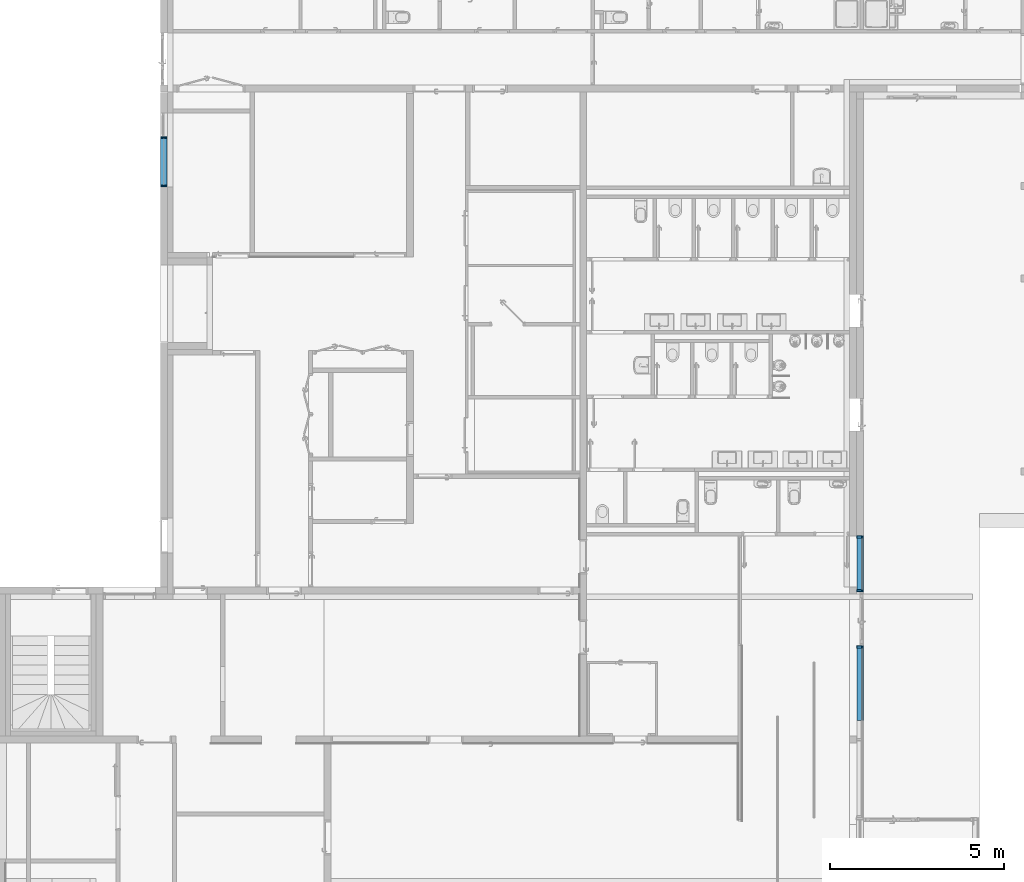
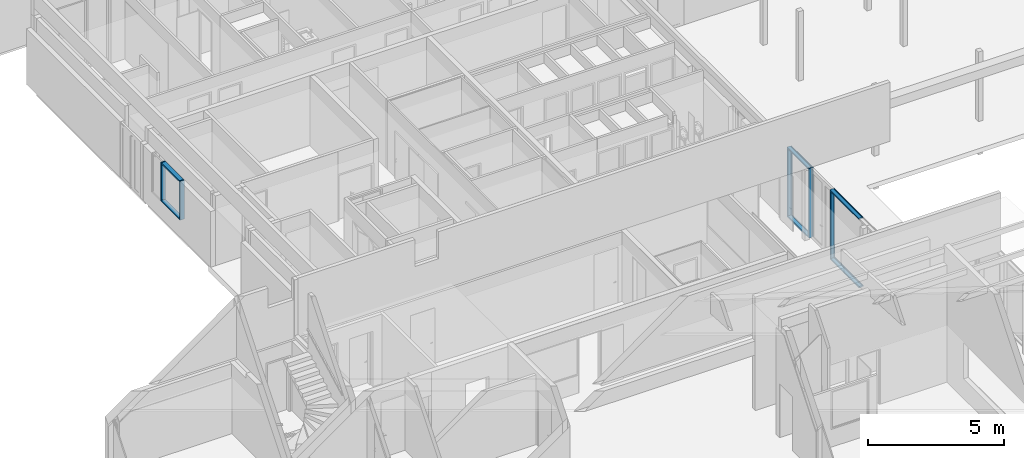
# One storey, part 10 of 240: 12 members, 3 elements without a shape of their own.
"""IFC2X3 building model written with IfcOpenShell, lengths in centimetres."""

import ifcopenshell
import ifcopenshell.guid

model = None  # the IFC model being written
_history = None  # IfcOwnerHistory: only IFC2X3 demands one
_inside = {}  # id of a spatial element -> (the spatial element, [elements in it])
_under = {}  # id of a project, library or spatial element -> (it, [spatial elements below it])
_declared = {}  # id of a project -> (the project, [libraries it declares])
_typed = {}  # id of a type object -> (the type object, [elements of that type])
_made_of = {}  # id of a material, layer set ... -> (it, [elements and type objects made of it])


def new_model(schema):
    """Start an empty IFC model of exactly this schema.

    Asked for "IFC4X3", IfcOpenShell would pick the latest addendum, in which some entities
    have other attributes; the version numbers below select the first issue.
    IFC2X3 requires an IfcOwnerHistory on every rooted entity: one is made here for all.
    """
    global model, _history
    if schema == "IFC4X3":
        model = ifcopenshell.file(schema_version=(4, 3, 0, 0))
    else:
        model = ifcopenshell.file(schema=schema)
    _inside.clear()
    _under.clear()
    _declared.clear()
    _typed.clear()
    _made_of.clear()
    _history = None
    if model.schema == "IFC2X3":
        org = make("IfcOrganization", Name="unknown")
        user = make(
            "IfcPersonAndOrganization",
            ThePerson=make("IfcPerson", FamilyName="unknown"),
            TheOrganization=org,
        )
        app = make(
            "IfcApplication",
            ApplicationDeveloper=org,
            Version="unknown",
            ApplicationFullName="unknown",
            ApplicationIdentifier="unknown",
        )
        _history = make(
            "IfcOwnerHistory",
            OwningUser=user,
            OwningApplication=app,
            ChangeAction="ADDED",
            CreationDate=0,
        )
    return model


def make(cls, **values):
    """One entity of the class cls with the attributes given. An attribute that is None is left unset."""
    return model.create_entity(
        cls, **{name: value for name, value in values.items() if value is not None}
    )


def entity(cls, *values):
    """Any entity or typed value of the class cls, its attributes in the order of the schema. None: left unset."""
    e = model.create_entity(cls)
    for i, value in enumerate(values):
        if value is not None:
            e[i] = value
    return e


def rooted(cls, **values):
    """An entity with a GlobalId (a new one), such as an element, a storey or a relation."""
    return make(cls, GlobalId=ifcopenshell.guid.new(), OwnerHistory=_history, **values)


def si_unit(unit_type, name, prefix=None):
    """IfcSIUnit, for example si_unit("LENGTHUNIT", "METRE", prefix="MILLI")."""
    return make("IfcSIUnit", UnitType=unit_type, Prefix=prefix, Name=name)


def converted_unit(unit_type, name, factor, base, dimensions=None, offset=None):
    """IfcConversionBasedUnit, such as the inch: factor (a typed value) times the base unit."""
    return make(
        "IfcConversionBasedUnit"
        if offset is None
        else "IfcConversionBasedUnitWithOffset",
        ConversionOffset=offset,
        Dimensions=None
        if dimensions is None
        else entity("IfcDimensionalExponents", *dimensions),
        UnitType=unit_type,
        Name=name,
        ConversionFactor=make(
            "IfcMeasureWithUnit", ValueComponent=factor, UnitComponent=base
        ),
    )


def derived_unit(unit_type, elements):
    """IfcDerivedUnit: a product of units, each with its exponent."""
    return make(
        "IfcDerivedUnit",
        Elements=[
            make("IfcDerivedUnitElement", Unit=unit, Exponent=power)
            for unit, power in elements
        ],
        UnitType=unit_type,
    )


def assignment(units):
    """IfcUnitAssignment: the units of a project."""
    return None if units is None else make("IfcUnitAssignment", Units=units)


def point(xyz):
    """IfcCartesianPoint."""
    return None if xyz is None else make("IfcCartesianPoint", Coordinates=xyz)


def direction(xyz):
    """IfcDirection."""
    return None if xyz is None else make("IfcDirection", DirectionRatios=xyz)


def frame(location, z_axis=None, x_axis=None):
    """IfcAxis2Placement3D, a coordinate frame: its origin and axes. An axis left out is left unset."""
    return make(
        "IfcAxis2Placement3D",
        Location=point(location),
        Axis=direction(z_axis),
        RefDirection=direction(x_axis),
    )


def frame_2d(location, x_axis=None):
    """IfcAxis2Placement2D, a coordinate frame in the plane: its origin and x axis."""
    return make(
        "IfcAxis2Placement2D", Location=point(location), RefDirection=direction(x_axis)
    )


def origin():
    """The frame at (0, 0, 0) with its axes left unset."""
    return frame((0.0, 0.0, 0.0))


def origin_2d_with_axis():
    """The frame at (0, 0) in the plane with the x axis (1, 0) written out."""
    return frame_2d((0.0, 0.0), x_axis=(1.0, 0.0))


def place(relative_to, where):
    """IfcLocalPlacement: puts the frame where relative to a parent placement (None: the world)."""
    return make(
        "IfcLocalPlacement", PlacementRelTo=relative_to, RelativePlacement=where
    )


def context(
    kind, dimensions, precision=None, world=None, true_north=None, identifier=None
):
    """IfcGeometricRepresentationContext, for example the 3D "Model" context."""
    return make(
        "IfcGeometricRepresentationContext",
        ContextIdentifier=identifier,
        ContextType=kind,
        CoordinateSpaceDimension=dimensions,
        Precision=precision,
        WorldCoordinateSystem=world,
        TrueNorth=true_north,
    )


def subcontext(parent, identifier, kind, view, scale=None):
    """IfcGeometricRepresentationSubContext, for example "Body" below "Model"."""
    return make(
        "IfcGeometricRepresentationSubContext",
        ContextIdentifier=identifier,
        ContextType=kind,
        ParentContext=parent,
        TargetScale=scale,
        TargetView=view,
    )


def project(units=None, contexts=None):
    """IfcProject with its units and contexts."""
    return rooted(
        "IfcProject",
        Name="project",
        RepresentationContexts=contexts,
        UnitsInContext=assignment(units),
    )


def spatial(cls, under=None, at=None, **own):
    """A site, building, storey or space (cls), placed at a placement, below another one or the project."""
    s = rooted(cls, ObjectPlacement=at, **own)
    if under is not None:
        _under.setdefault(under.id(), (under, []))[1].append(s)
    return s


def polyline(points):
    """IfcPolyline through the points."""
    return make("IfcPolyline", Points=[point(p) for p in points])


def profile(cls, at=None, kind="AREA", **sizes):
    """A parametric profile (cls). Its sizes go by their IFC names, for example OverallWidth=200.0."""
    return make(cls, ProfileType=kind, Position=at, **sizes)


def rectangle(**sizes):
    """IfcRectangleProfileDef."""
    return profile("IfcRectangleProfileDef", **sizes)


def outline(outer, holes=None, kind="AREA"):
    """IfcArbitraryClosedProfileDef: a profile drawn as a closed curve; with holes, ...WithVoids."""
    if holes is None:
        return make("IfcArbitraryClosedProfileDef", ProfileType=kind, OuterCurve=outer)
    return make(
        "IfcArbitraryProfileDefWithVoids",
        ProfileType=kind,
        OuterCurve=outer,
        InnerCurves=holes,
    )


def extrude(swept, where, along, depth):
    """IfcExtrudedAreaSolid: the profile swept, set in the frame where, extruded along a direction by depth."""
    return make(
        "IfcExtrudedAreaSolid",
        SweptArea=swept,
        Position=where,
        ExtrudedDirection=direction(along),
        Depth=depth,
    )


def shape(context_of_items, identifier, shape_type, items):
    """IfcShapeRepresentation: the items that make up one representation, for example the "Body"."""
    return make(
        "IfcShapeRepresentation",
        ContextOfItems=context_of_items,
        RepresentationIdentifier=identifier,
        RepresentationType=shape_type,
        Items=items,
    )


def source(mapping_origin, context_of_items, identifier, shape_type, items):
    """IfcRepresentationMap: a shape defined once, which mapped items show again and again."""
    return make(
        "IfcRepresentationMap",
        MappingOrigin=mapping_origin,
        MappedRepresentation=shape(context_of_items, identifier, shape_type, items),
    )


def transform(
    local_origin,
    x_axis=None,
    y_axis=None,
    z_axis=None,
    scale=None,
    scale2=None,
    scale3=None,
    uniform=True,
):
    """IfcCartesianTransformationOperator3D, or its non-uniform kind. x_axis, y_axis, z_axis: its Axis1, 2, 3."""
    if uniform:
        return make(
            "IfcCartesianTransformationOperator3D",
            Axis1=direction(x_axis),
            Axis2=direction(y_axis),
            LocalOrigin=point(local_origin),
            Scale=scale,
            Axis3=direction(z_axis),
        )
    return make(
        "IfcCartesianTransformationOperator3DnonUniform",
        Axis1=direction(x_axis),
        Axis2=direction(y_axis),
        LocalOrigin=point(local_origin),
        Scale=scale,
        Axis3=direction(z_axis),
        Scale2=scale2,
        Scale3=scale3,
    )


def mapped(mapping_source, mapping_target):
    """IfcMappedItem: shows the shape of a source again, moved by a transform."""
    return make(
        "IfcMappedItem", MappingSource=mapping_source, MappingTarget=mapping_target
    )


def material(Name=None, Category=None):
    """IfcMaterial."""
    return make("IfcMaterial", Name=Name, Category=Category)


def made_of(thing, what):
    """Note that an element or type object is made of a material, layer set ...; save() writes the relation."""
    if what is not None:
        _made_of.setdefault(what.id(), (what, []))[1].append(thing)
    return thing


def type_object(cls, material=None, **own):
    """A type object (cls), such as IfcWallType, which elements share."""
    return made_of(rooted(cls, **own), material)


def type_shapes(of_type, sources):
    """Give a type object the sources (RepresentationMaps) that its elements show as mapped items."""
    of_type.RepresentationMaps = sources


def element(
    cls,
    number,
    at=None,
    inside=None,
    cuts=None,
    type_object=None,
    material=None,
    context=None,
    identifier="Body",
    shape_type=None,
    held_by="IfcProductDefinitionShape",
    body=None,
    shapes=None,
    **own,
):
    """One element of the class cls, such as IfcWall. Its Tag is "e" and its number.

    at: its placement. inside: the storey or other place that contains it. cuts: it is an
    opening in that element (IfcRelVoidsElement). A single representation is given by context,
    identifier, shape_type and body (its items); several are given by shapes. held_by: the class
    of the entity that holds the representations. save() writes the other relations.
    """
    e = rooted(cls, Tag="e%d" % number, ObjectPlacement=at, **own)
    if body is not None:
        shapes = [shape(context, identifier, shape_type, body)]
    if shapes is not None:
        e.Representation = make(held_by, Representations=shapes)
    if inside is not None:
        _inside.setdefault(inside.id(), (inside, []))[1].append(e)
    if cuts is not None:
        rooted(
            "IfcRelVoidsElement", RelatingBuildingElement=cuts, RelatedOpeningElement=e
        )
    if type_object is not None:
        _typed.setdefault(type_object.id(), (type_object, []))[1].append(e)
    return made_of(e, material)


def aggregate(whole, parts):
    """IfcRelAggregates: a whole, such as a stair, and the parts it consists of."""
    return rooted("IfcRelAggregates", RelatingObject=whole, RelatedObjects=parts)


def save(model, path):
    """Write the relations noted so far, then the file.

    IfcRelAggregates (storeys below a building ...), IfcRelContainedInSpatialStructure (elements
    in a storey), IfcRelDefinesByType, IfcRelAssociatesMaterial and IfcRelDeclares: one each for
    every whole, place, type object, material and project.
    """
    for whole, parts in _under.values():
        aggregate(whole, parts)
    for where, things in _inside.values():
        rooted(
            "IfcRelContainedInSpatialStructure",
            RelatedElements=things,
            RelatingStructure=where,
        )
    for kind, things in _typed.values():
        rooted("IfcRelDefinesByType", RelatedObjects=things, RelatingType=kind)
    for what, things in _made_of.values():
        rooted("IfcRelAssociatesMaterial", RelatedObjects=things, RelatingMaterial=what)
    for by, libraries in _declared.values():
        rooted("IfcRelDeclares", RelatingContext=by, RelatedDefinitions=libraries)
    model.write(path)


model = new_model("IFC2X3")

# Units and contexts
model_context = context("Model", 3, precision=0.001, world=origin(), true_north=direction((6.12303176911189e-17, 1.0)))
body_context = subcontext(model_context, "Body", "Model", "MODEL_VIEW")
ifc_project = project(units=[si_unit("LENGTHUNIT", "METRE", prefix="CENTI"), si_unit("AREAUNIT", "SQUARE_METRE"), si_unit("VOLUMEUNIT", "CUBIC_METRE"), converted_unit("PLANEANGLEUNIT", "DEGREE", entity("IfcRatioMeasure", 0.0174532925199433), si_unit("PLANEANGLEUNIT", "RADIAN"), dimensions=[0, 0, 0, 0, 0, 0, 0]), si_unit("MASSUNIT", "GRAM", prefix="KILO"), derived_unit("MASSDENSITYUNIT", [(si_unit("MASSUNIT", "GRAM", prefix="KILO"), 1), (si_unit("LENGTHUNIT", "METRE"), -3)]), si_unit("TIMEUNIT", "SECOND"), si_unit("FREQUENCYUNIT", "HERTZ"), si_unit("THERMODYNAMICTEMPERATUREUNIT", "DEGREE_CELSIUS"), derived_unit("THERMALTRANSMITTANCEUNIT", [(si_unit("MASSUNIT", "GRAM", prefix="KILO"), 1), (si_unit("THERMODYNAMICTEMPERATUREUNIT", "KELVIN"), -1), (si_unit("TIMEUNIT", "SECOND"), -3)]), derived_unit("VOLUMETRICFLOWRATEUNIT", [(si_unit("LENGTHUNIT", "METRE"), 3), (si_unit("TIMEUNIT", "SECOND"), -1)]), si_unit("ELECTRICCURRENTUNIT", "AMPERE"), si_unit("ELECTRICVOLTAGEUNIT", "VOLT"), si_unit("POWERUNIT", "WATT"), si_unit("FORCEUNIT", "NEWTON", prefix="KILO"), si_unit("ILLUMINANCEUNIT", "LUX"), si_unit("LUMINOUSFLUXUNIT", "LUMEN"), si_unit("LUMINOUSINTENSITYUNIT", "CANDELA"), derived_unit("USERDEFINED", [(si_unit("MASSUNIT", "GRAM", prefix="KILO"), -1), (si_unit("LENGTHUNIT", "METRE"), -2), (si_unit("TIMEUNIT", "SECOND"), 3), (si_unit("LUMINOUSFLUXUNIT", "LUMEN"), 1)]), derived_unit("LINEARVELOCITYUNIT", [(si_unit("LENGTHUNIT", "METRE"), 1), (si_unit("TIMEUNIT", "SECOND"), -1)]), si_unit("PRESSUREUNIT", "PASCAL"), derived_unit("USERDEFINED", [(si_unit("LENGTHUNIT", "METRE"), -2), (si_unit("MASSUNIT", "GRAM", prefix="KILO"), 1), (si_unit("TIMEUNIT", "SECOND"), -2)])], contexts=[model_context])

# Site, building, storey
site_placement = place(None, frame((-2781.94577612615, 7442.24238424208, 0.0)))
site = spatial("IfcSite", under=ifc_project, at=site_placement, Name="Default", CompositionType="ELEMENT")
building_placement = place(site_placement, origin())
building = spatial("IfcBuilding", under=site, at=building_placement, CompositionType="ELEMENT")
storey_placement = place(building_placement, origin())
storey = spatial("IfcBuildingStorey", under=building, at=storey_placement, Name="N00 - COO", CompositionType="ELEMENT", Elevation=0.0)

# Curtain wall, members
curtain_wall_type_1 = type_object("IfcCurtainWallType", Name="Mur-rideau:07 - mur rideau trame 280 cm", PredefinedType="NOTDEFINED")
curtain_wall_1_placement = place(building_placement, origin())
curtain_wall_1 = element("IfcCurtainWall", 1, at=curtain_wall_1_placement, inside=storey, type_object=curtain_wall_type_1, Name="Mur-rideau:07 - mur rideau trame 280 cm", ObjectType="Mur-rideau:07 - mur rideau trame 280 cm")
ifc_material_1 = material(Name="Aluminium")
member_type_1 = type_object("IfcMemberType", Name="150 x 25mm Détails", PredefinedType="MEMBER")
shared_shape_1 = source(origin(), body_context, "Body", "SweptSolid", [
    extrude(outline(polyline([(-13.3333333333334, -3.25000000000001), (0.166666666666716, -3.25000000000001), (0.166666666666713, -0.86874999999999), (3.66666666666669, -0.86874999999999), (3.66666666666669, -3.24999999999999), (5.66666666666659, -3.24999999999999), (5.66666666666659, 3.25), (3.66666666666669, 3.25), (3.66666666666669, 0.868749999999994), (0.166666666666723, 0.868749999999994), (0.166666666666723, 3.25000000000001), (-13.3333333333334, 3.24999999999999), (-13.3333333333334, -3.25000000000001)])), frame((-3.24999999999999, 1.96666666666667, -313.0), z_axis=(0.0, 0.0, 1.0), x_axis=(0.0, -1.0, 0.0)), (0.0, 0.0, 1.0), 313.0),
])
type_shapes(member_type_1, [shared_shape_1])
member_1_placement = place(building_placement, frame((-8885.63218005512, -3365.79180651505, 0.0), z_axis=(0.0, 0.0, -1.0), x_axis=(0.0, -1.0, 0.0)))
member_1 = element("IfcMember", 2, at=member_1_placement, type_object=member_type_1, material=ifc_material_1, Name="Meneau rectangulaire:150 x 25mm Détails", ObjectType="Meneau rectangulaire:150 x 25mm Détails", context=body_context, shape_type="MappedRepresentation", body=[
    mapped(shared_shape_1, transform((0.0, 0.0, 0.0), scale=1.0)),
])
member_type_2 = type_object("IfcMemberType", Name="150 x 25mm Détails", PredefinedType="MEMBER")
shared_shape_2 = source(origin(), body_context, "Body", "SweptSolid", [
    extrude(outline(polyline([(-13.3333333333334, -3.24999999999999), (0.166666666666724, -3.24999999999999), (0.166666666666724, -0.868749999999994), (3.66666666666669, -0.868749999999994), (3.66666666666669, -3.25), (5.6666666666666, -3.25), (5.6666666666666, 3.24999999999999), (3.66666666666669, 3.24999999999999), (3.66666666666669, 0.86874999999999), (0.166666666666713, 0.86874999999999), (0.166666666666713, 3.25000000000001), (-13.3333333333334, 3.25000000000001), (-13.3333333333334, -3.24999999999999)])), frame((-3.24999999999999, 1.96666666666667, -300.0), z_axis=(0.0, 0.0, 1.0), x_axis=(0.0, -1.0, 0.0)), (0.0, 0.0, 1.0), 300.000000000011),
])
type_shapes(member_type_2, [shared_shape_2])
member_2_placement = place(building_placement, frame((-8885.63218005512, -3205.07903364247, 306.500000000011), z_axis=(0.0, 0.0, 1.0), x_axis=(0.0, 1.0, 0.0)))
member_2 = element("IfcMember", 3, at=member_2_placement, type_object=member_type_2, material=ifc_material_1, Name="Meneau rectangulaire:150 x 25mm Détails", ObjectType="Meneau rectangulaire:150 x 25mm Détails", context=body_context, shape_type="MappedRepresentation", body=[
    mapped(shared_shape_2, transform((0.0, 0.0, 0.0), scale=1.0)),
])
member_type_3 = type_object("IfcMemberType", Name="150 x 25mm Détails", PredefinedType="MEMBER")
shared_shape_3 = source(origin(), body_context, "Body", "SweptSolid", [
    extrude(outline(polyline([(-13.3333333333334, -3.25000000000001), (0.166666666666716, -3.25000000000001), (0.166666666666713, -0.86874999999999), (3.66666666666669, -0.86874999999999), (3.66666666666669, -3.24999999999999), (5.66666666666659, -3.24999999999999), (5.66666666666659, 3.25), (3.66666666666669, 3.25), (3.66666666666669, 0.868749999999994), (0.166666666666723, 0.868749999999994), (0.166666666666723, 3.25000000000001), (-13.3333333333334, 3.24999999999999), (-13.3333333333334, -3.25000000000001)])), frame((0.0, 1.96666666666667, -300.0), z_axis=(0.0, 0.0, 1.0), x_axis=(0.0, -1.0, 0.0)), (0.0, 0.0, 1.0), 300.000000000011),
])
type_shapes(member_type_3, [shared_shape_3])
member_3_placement = place(building_placement, frame((-8885.63218005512, -3362.52180651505, 6.49999999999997), z_axis=(0.0, 0.0, -1.0), x_axis=(0.0, -1.0, 0.0)))
member_3 = element("IfcMember", 4, at=member_3_placement, type_object=member_type_3, material=ifc_material_1, Name="Meneau rectangulaire:150 x 25mm Détails", ObjectType="Meneau rectangulaire:150 x 25mm Détails", context=body_context, shape_type="MappedRepresentation", body=[
    mapped(shared_shape_3, transform((0.0, 0.0, 0.0), scale=1.0)),
])

curtain_wall_type_2 = type_object("IfcCurtainWallType", Name="Mur-rideau:07 - Mur rideau meneaux 180", PredefinedType="NOTDEFINED")
curtain_wall_2_placement = place(building_placement, origin())
curtain_wall_2 = element("IfcCurtainWall", 5, at=curtain_wall_2_placement, inside=storey, type_object=curtain_wall_type_2, Name="Mur-rideau:07 - Mur rideau meneaux 180", ObjectType="Mur-rideau:07 - Mur rideau meneaux 180")
ifc_material_2 = material(Name="Plastique, blanc opaque")
member_type_4 = type_object("IfcMemberType", Name="180 x 50mm", PredefinedType="MEMBER")
shared_shape_4 = source(origin(), body_context, "Body", "SweptSolid", [
    extrude(rectangle(XDim=18.0, YDim=5.0, at=origin_2d_with_axis()), frame((-2.5, 0.0, -134.0), z_axis=(0.0, 0.0, 1.0), x_axis=(0.0, -1.0, 0.0)), (0.0, 0.0, 1.0), 134.0),
])
type_shapes(member_type_4, [shared_shape_4])
member_4_placement = place(building_placement, frame((-10892.6130476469, -2063.07903364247, 75.0), z_axis=(0.0, 1.0, 0.0), x_axis=(0.0, 0.0, -1.0)))
member_4 = element("IfcMember", 6, at=member_4_placement, type_object=member_type_4, material=ifc_material_2, Name="Meneau rectangulaire:180 x 50mm", ObjectType="Meneau rectangulaire:180 x 50mm", context=body_context, shape_type="MappedRepresentation", body=[
    mapped(shared_shape_4, transform((0.0, 0.0, 0.0), scale=1.0)),
])
member_type_5 = type_object("IfcMemberType", Name="180 x 50mm", PredefinedType="MEMBER")
shared_shape_5 = source(origin(), body_context, "Body", "SweptSolid", [
    extrude(rectangle(XDim=18.0, YDim=5.0, at=origin_2d_with_axis()), frame((-2.5, 0.0, -175.0), z_axis=(0.0, 0.0, 1.0), x_axis=(0.0, -1.0, 0.0)), (0.0, 0.0, 1.0), 175.0),
])
type_shapes(member_type_5, [shared_shape_5])
member_5_placement = place(building_placement, frame((-10892.6130476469, -2202.07903364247, 75.0), z_axis=(0.0, 0.0, -1.0), x_axis=(0.0, -1.0, 0.0)))
member_5 = element("IfcMember", 7, at=member_5_placement, type_object=member_type_5, material=ifc_material_2, Name="Meneau rectangulaire:180 x 50mm", ObjectType="Meneau rectangulaire:180 x 50mm", context=body_context, shape_type="MappedRepresentation", body=[
    mapped(shared_shape_5, transform((0.0, 0.0, 0.0), scale=1.0)),
])
member_type_6 = type_object("IfcMemberType", Name="180 x 50mm", PredefinedType="MEMBER")
shared_shape_6 = source(origin(), body_context, "Body", "SweptSolid", [
    extrude(rectangle(XDim=18.0, YDim=5.0, at=origin_2d_with_axis()), frame((-2.5, 0.0, -175.0), z_axis=(0.0, 0.0, 1.0), x_axis=(0.0, -1.0, 0.0)), (0.0, 0.0, 1.0), 175.0),
])
type_shapes(member_type_6, [shared_shape_6])
member_6_placement = place(building_placement, frame((-10892.6130476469, -2058.07903364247, 250.0), z_axis=(0.0, 0.0, 1.0), x_axis=(0.0, 1.0, 0.0)))
member_6 = element("IfcMember", 8, at=member_6_placement, type_object=member_type_6, material=ifc_material_2, Name="Meneau rectangulaire:180 x 50mm", ObjectType="Meneau rectangulaire:180 x 50mm", context=body_context, shape_type="MappedRepresentation", body=[
    mapped(shared_shape_6, transform((0.0, 0.0, 0.0), scale=1.0)),
])
member_type_7 = type_object("IfcMemberType", Name="180 x 50mm", PredefinedType="MEMBER")
shared_shape_7 = source(origin(), body_context, "Body", "SweptSolid", [
    extrude(rectangle(XDim=18.0, YDim=5.0, at=origin_2d_with_axis()), frame((-2.5, 0.0, -134.0), z_axis=(0.0, 0.0, 1.0), x_axis=(0.0, -1.0, 0.0)), (0.0, 0.0, 1.0), 134.0),
])
type_shapes(member_type_7, [shared_shape_7])
member_7_placement = place(building_placement, frame((-10892.6130476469, -2197.07903364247, 250.0), z_axis=(0.0, -1.0, 0.0), x_axis=(0.0, 0.0, 1.0)))
member_7 = element("IfcMember", 9, at=member_7_placement, type_object=member_type_7, material=ifc_material_2, Name="Meneau rectangulaire:180 x 50mm", ObjectType="Meneau rectangulaire:180 x 50mm", context=body_context, shape_type="MappedRepresentation", body=[
    mapped(shared_shape_7, transform((0.0, 0.0, 0.0), scale=1.0)),
])
aggregate(curtain_wall_2, [member_4, member_5, member_6, member_7])

curtain_wall_3_placement = place(building_placement, origin())
curtain_wall_3 = element("IfcCurtainWall", 10, at=curtain_wall_3_placement, inside=storey, type_object=curtain_wall_type_1, Name="Mur-rideau:07 - mur rideau trame 280 cm", ObjectType="Mur-rideau:07 - mur rideau trame 280 cm")
member_type_8 = type_object("IfcMemberType", Name="150 x 25mm Détails", PredefinedType="MEMBER")
shared_shape_8 = source(origin(), body_context, "Body", "SweptSolid", [
    extrude(outline(polyline([(-5.66666666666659, -3.24999999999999), (-3.66666666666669, -3.24999999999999), (-3.66666666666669, -0.868749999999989), (-0.166666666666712, -0.868749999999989), (-0.166666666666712, -3.25000000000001), (13.3333333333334, -3.25000000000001), (13.3333333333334, 3.24999999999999), (-0.166666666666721, 3.24999999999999), (-0.166666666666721, 0.868749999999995), (-3.66666666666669, 0.868749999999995), (-3.66666666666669, 3.25), (-5.66666666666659, 3.25), (-5.66666666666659, -3.24999999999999)])), frame((-3.24999999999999, -1.96666666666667, -300.0), z_axis=(0.0, 0.0, 1.0), x_axis=(0.0, -1.0, 0.0)), (0.0, 0.0, 1.0), 300.0),
])
type_shapes(member_type_8, [shared_shape_8])
member_8_placement = place(building_placement, frame((-8885.63218005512, -3521.07903364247, 6.49999999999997), z_axis=(0.0, 0.0, -1.0), x_axis=(0.0, 1.0, 0.0)))
member_8 = element("IfcMember", 11, at=member_8_placement, type_object=member_type_8, material=ifc_material_1, Name="Meneau rectangulaire:150 x 25mm Détails", ObjectType="Meneau rectangulaire:150 x 25mm Détails", context=body_context, shape_type="MappedRepresentation", body=[
    mapped(shared_shape_8, transform((0.0, 0.0, 0.0), scale=1.0)),
])
member_type_9 = type_object("IfcMemberType", Name="150 x 25mm Détails", PredefinedType="MEMBER")
shared_shape_9 = source(origin(), body_context, "Body", "SweptSolid", [
    extrude(outline(polyline([(-5.6666666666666, -3.24999999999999), (-3.66666666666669, -3.24999999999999), (-3.66666666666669, -0.868749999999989), (-0.166666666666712, -0.868749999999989), (-0.166666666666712, -3.25000000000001), (13.3333333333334, -3.25000000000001), (13.3333333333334, 3.24999999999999), (-0.16666666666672, 3.24999999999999), (-0.16666666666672, 0.868749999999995), (-3.66666666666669, 0.868749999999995), (-3.66666666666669, 3.25), (-5.6666666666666, 3.25), (-5.6666666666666, -3.24999999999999)])), frame((-3.24999999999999, -1.96666666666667, -214.0), z_axis=(0.0, 0.0, 1.0), x_axis=(0.0, -1.0, 0.0)), (0.0, 0.0, 1.0), 213.99999996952),
])
type_shapes(member_type_9, [shared_shape_9])
member_9_placement = place(building_placement, frame((-8885.63218005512, -3521.07903364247, 313.0), z_axis=(0.0, 1.0, 0.0), x_axis=(0.0, 0.0, 1.0)))
member_9 = element("IfcMember", 12, at=member_9_placement, type_object=member_type_9, material=ifc_material_1, Name="Meneau rectangulaire:150 x 25mm Détails", ObjectType="Meneau rectangulaire:150 x 25mm Détails", context=body_context, shape_type="MappedRepresentation", body=[
    mapped(shared_shape_9, transform((0.0, 0.0, 0.0), scale=1.0)),
])
member_type_10 = type_object("IfcMemberType", Name="150 x 25mm Détails", PredefinedType="MEMBER")
shared_shape_10 = source(origin(), body_context, "Body", "SweptSolid", [
    extrude(outline(polyline([(-5.66666666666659, -3.25), (-3.66666666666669, -3.25), (-3.66666666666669, -0.868749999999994), (-0.166666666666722, -0.868749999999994), (-0.166666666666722, -3.25000000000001), (13.3333333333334, -3.24999999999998), (13.3333333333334, 3.25000000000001), (-0.166666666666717, 3.25000000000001), (-0.166666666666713, 0.868749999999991), (-3.66666666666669, 0.868749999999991), (-3.66666666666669, 3.24999999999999), (-5.66666666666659, 3.24999999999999), (-5.66666666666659, -3.25)])), frame((-3.24999999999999, -1.96666666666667, -214.0), z_axis=(0.0, 0.0, 1.0), x_axis=(0.0, -1.0, 0.0)), (0.0, 0.0, 1.0), 213.99999996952),
])
type_shapes(member_type_10, [shared_shape_10])
member_10_placement = place(building_placement, frame((-8885.63218005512, -3735.07903361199, 0.0), z_axis=(0.0, -1.0, 0.0), x_axis=(0.0, 0.0, -1.0)))
member_10 = element("IfcMember", 13, at=member_10_placement, type_object=member_type_10, material=ifc_material_1, Name="Meneau rectangulaire:150 x 25mm Détails", ObjectType="Meneau rectangulaire:150 x 25mm Détails", context=body_context, shape_type="MappedRepresentation", body=[
    mapped(shared_shape_10, transform((0.0, 0.0, 0.0), scale=1.0)),
])
aggregate(curtain_wall_3, [member_9, member_8, member_10])

# Member
member_type_11 = type_object("IfcMemberType", Name="150 x 25mm Détails", PredefinedType="MEMBER")
shared_shape_11 = source(origin(), body_context, "Body", "SweptSolid", [
    extrude(outline(polyline([(-13.3333333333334, -3.24999999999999), (0.166666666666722, -3.24999999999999), (0.166666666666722, -0.868749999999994), (3.66666666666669, -0.868749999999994), (3.66666666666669, -3.25), (5.66666666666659, -3.25), (5.66666666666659, 3.24999999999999), (3.66666666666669, 3.24999999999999), (3.66666666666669, 0.86874999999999), (0.166666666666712, 0.86874999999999), (0.166666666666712, 3.25000000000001), (-13.3333333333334, 3.25000000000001), (-13.3333333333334, -3.24999999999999)])), frame((-3.24999999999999, 1.96666666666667, -160.692772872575), z_axis=(0.0, 0.0, 1.0), x_axis=(0.0, -1.0, 0.0)), (0.0, 0.0, 1.0), 160.692772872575),
])
type_shapes(member_type_11, [shared_shape_11])
member_11_placement = place(building_placement, frame((-8885.63218005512, -3205.07903364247, 0.0), z_axis=(0.0, 1.0, 0.0), x_axis=(0.0, 0.0, -1.0)))
member_11 = element("IfcMember", 14, at=member_11_placement, type_object=member_type_11, material=ifc_material_1, Name="Meneau rectangulaire:150 x 25mm Détails", ObjectType="Meneau rectangulaire:150 x 25mm Détails", context=body_context, shape_type="MappedRepresentation", body=[
    mapped(shared_shape_11, transform((0.0, 0.0, 0.0), scale=1.0)),
])

member_type_12 = type_object("IfcMemberType", Name="150 x 25mm Détails", PredefinedType="MEMBER")
shared_shape_12 = source(origin(), body_context, "Body", "SweptSolid", [
    extrude(outline(polyline([(-13.3333333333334, -3.25000000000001), (0.166666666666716, -3.25000000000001), (0.166666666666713, -0.86874999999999), (3.66666666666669, -0.86874999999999), (3.66666666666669, -3.24999999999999), (5.66666666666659, -3.24999999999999), (5.66666666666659, 3.25), (3.66666666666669, 3.25), (3.66666666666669, 0.868749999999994), (0.166666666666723, 0.868749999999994), (0.166666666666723, 3.25000000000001), (-13.3333333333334, 3.24999999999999), (-13.3333333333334, -3.25000000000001)])), frame((-3.24999999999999, 1.96666666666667, -160.692772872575), z_axis=(0.0, 0.0, 1.0), x_axis=(0.0, -1.0, 0.0)), (0.0, 0.0, 1.0), 160.692772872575),
])
type_shapes(member_type_12, [shared_shape_12])
member_12_placement = place(building_placement, frame((-8885.63218005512, -3365.77180651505, 313.0), z_axis=(0.0, -1.0, 0.0), x_axis=(0.0, 0.0, 1.0)))
member_12 = element("IfcMember", 15, at=member_12_placement, type_object=member_type_12, material=ifc_material_1, Name="Meneau rectangulaire:150 x 25mm Détails", ObjectType="Meneau rectangulaire:150 x 25mm Détails", context=body_context, shape_type="MappedRepresentation", body=[
    mapped(shared_shape_12, transform((0.0, 0.0, 0.0), scale=1.0)),
])

aggregate(curtain_wall_1, [member_11, member_1, member_2, member_3, member_12])

save(model, "model.ifc")
